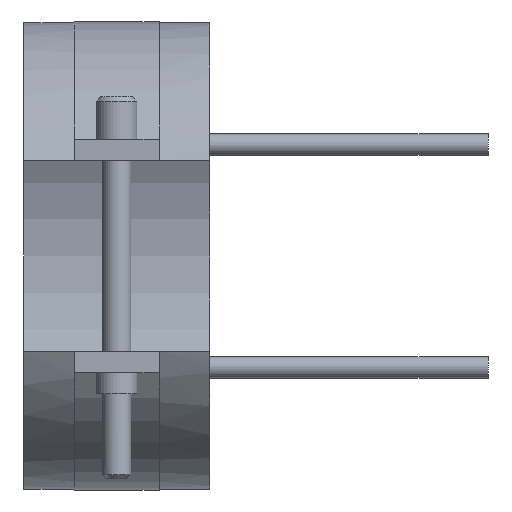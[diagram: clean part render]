
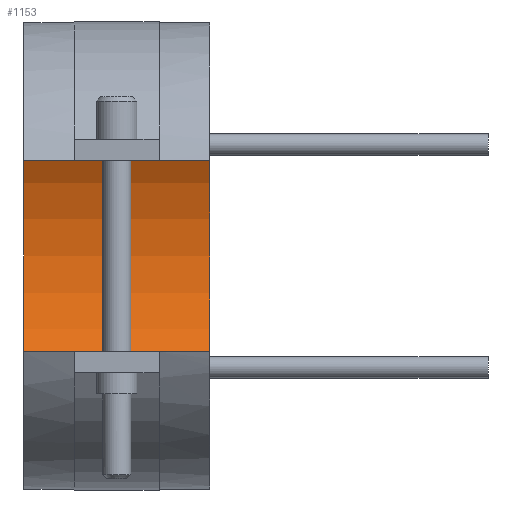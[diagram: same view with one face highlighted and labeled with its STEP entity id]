
A CAD part, front view. The second image highlights one B-rep face of the part: STEP entity #1153.
In plain terms, the highlighted cylindrical face has radius 40 mm (diameter 80 mm), a partial arc.
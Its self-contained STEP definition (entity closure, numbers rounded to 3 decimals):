
#834=CARTESIAN_POINT('Vertex',(-17.5,0.,-40.)) ;
#841=CARTESIAN_POINT('Vertex',(17.5,0.,-40.)) ;
#844=CARTESIAN_POINT('Line Origine',(17.5,0.,-40.)) ;
#862=CARTESIAN_POINT('Axis2P3D Location',(-17.5,0.,0.)) ;
#866=CARTESIAN_POINT('Vertex',(-17.5,0.,40.)) ;
#923=CARTESIAN_POINT('Vertex',(17.5,0.,40.)) ;
#933=CARTESIAN_POINT('Line Origine',(17.5,0.,40.)) ;
#1024=CARTESIAN_POINT('Axis2P3D Location',(17.5,0.,0.)) ;
#1142=CARTESIAN_POINT('Axis2P3D Location',(17.5,0.,0.)) ;
#845=DIRECTION('Vector Direction',(1.,0.,0.)) ;
#863=DIRECTION('Axis2P3D Direction',(1.,0.,0.)) ;
#934=DIRECTION('Vector Direction',(1.,0.,0.)) ;
#1025=DIRECTION('Axis2P3D Direction',(1.,0.,0.)) ;
#1143=DIRECTION('Axis2P3D Direction',(1.,0.,-0.)) ;
#1144=DIRECTION('Axis2P3D XDirection',(0.,0.,-1.)) ;
#864=AXIS2_PLACEMENT_3D('Circle Axis2P3D',#862,#863,$) ;
#1026=AXIS2_PLACEMENT_3D('Circle Axis2P3D',#1024,#1025,$) ;
#1145=AXIS2_PLACEMENT_3D('Cylinder Axis2P3D',#1142,#1143,#1144) ;
#1148=ORIENTED_EDGE('',*,*,#1028,.T.) ;
#1149=ORIENTED_EDGE('',*,*,#937,.T.) ;
#1150=ORIENTED_EDGE('',*,*,#868,.F.) ;
#1151=ORIENTED_EDGE('',*,*,#848,.T.) ;
#846=VECTOR('Line Direction',#845,1.) ;
#935=VECTOR('Line Direction',#934,1.) ;
#1153=ADVANCED_FACE('14080035',(#1152),#1146,.F.) ;
#865=CIRCLE('generated circle',#864,40.) ;
#1027=CIRCLE('generated circle',#1026,40.) ;
#1146=CYLINDRICAL_SURFACE('generated cylinder',#1145,40.) ;
#848=EDGE_CURVE('',#835,#842,#847,.T.) ;
#868=EDGE_CURVE('',#835,#867,#865,.T.) ;
#937=EDGE_CURVE('',#924,#867,#936,.F.) ;
#1028=EDGE_CURVE('',#842,#924,#1027,.T.) ;
#1147=EDGE_LOOP('',(#1148,#1149,#1150,#1151)) ;
#1152=FACE_OUTER_BOUND('',#1147,.T.) ;
#847=LINE('Line',#844,#846) ;
#936=LINE('Line',#933,#935) ;
#835=VERTEX_POINT('',#834) ;
#842=VERTEX_POINT('',#841) ;
#867=VERTEX_POINT('',#866) ;
#924=VERTEX_POINT('',#923) ;
